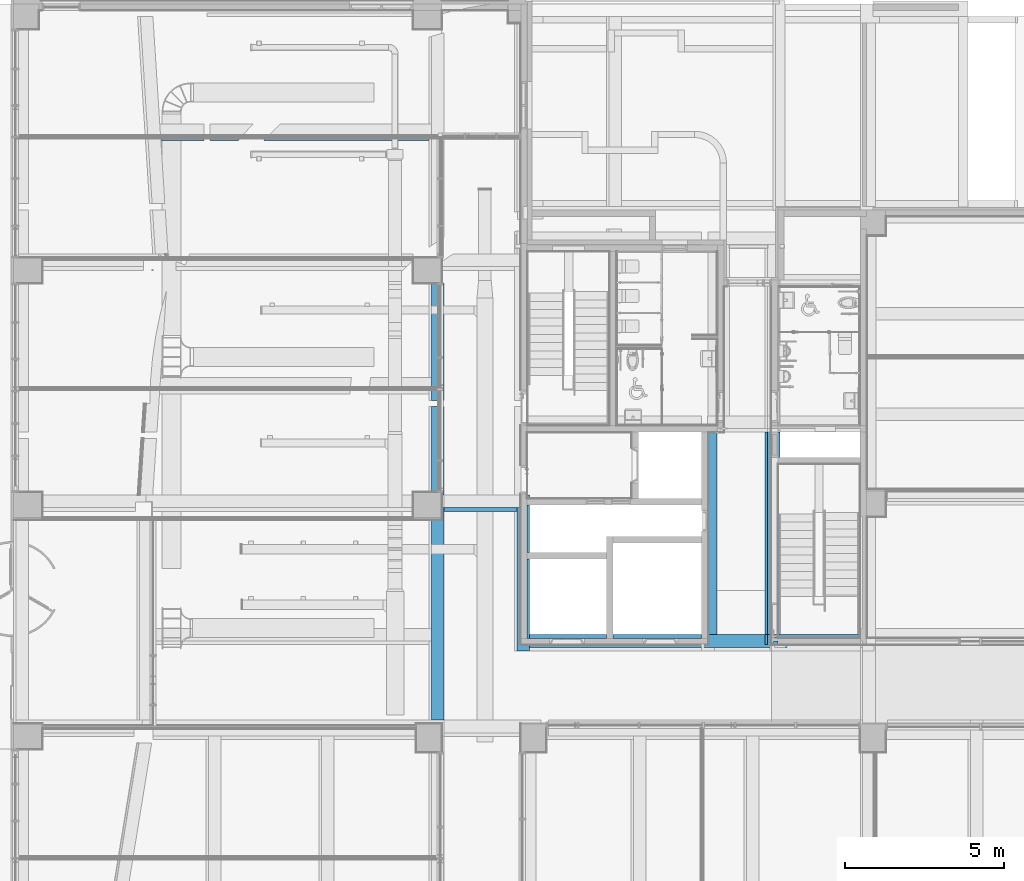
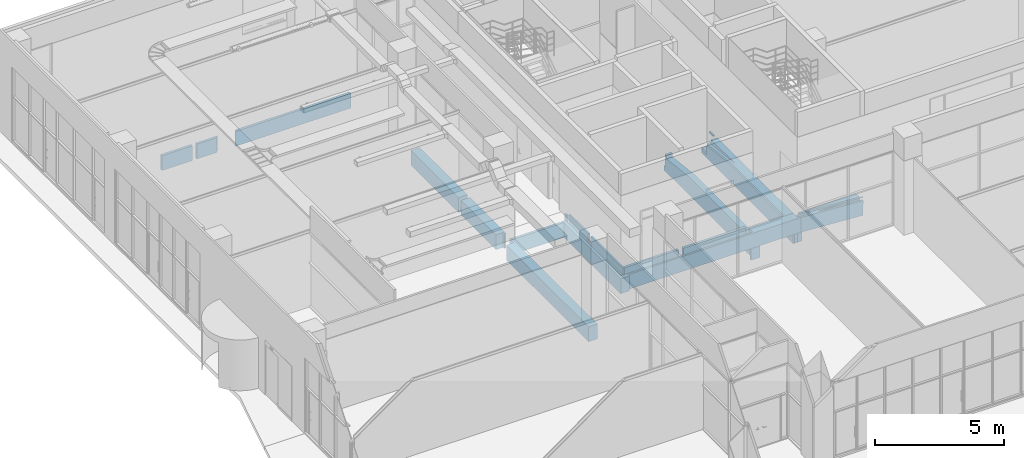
# One storey, part 57 of 100: 10 beams.
"""IFC2X3 building model written with IfcOpenShell, lengths in millimetres."""

import ifcopenshell
import ifcopenshell.guid

model = None  # the IFC model being written
_history = None  # IfcOwnerHistory: only IFC2X3 demands one
_inside = {}  # id of a spatial element -> (the spatial element, [elements in it])
_under = {}  # id of a project, library or spatial element -> (it, [spatial elements below it])
_declared = {}  # id of a project -> (the project, [libraries it declares])
_typed = {}  # id of a type object -> (the type object, [elements of that type])
_made_of = {}  # id of a material, layer set ... -> (it, [elements and type objects made of it])


def new_model(schema):
    """Start an empty IFC model of exactly this schema.

    Asked for "IFC4X3", IfcOpenShell would pick the latest addendum, in which some entities
    have other attributes; the version numbers below select the first issue.
    IFC2X3 requires an IfcOwnerHistory on every rooted entity: one is made here for all.
    """
    global model, _history
    if schema == "IFC4X3":
        model = ifcopenshell.file(schema_version=(4, 3, 0, 0))
    else:
        model = ifcopenshell.file(schema=schema)
    _inside.clear()
    _under.clear()
    _declared.clear()
    _typed.clear()
    _made_of.clear()
    _history = None
    if model.schema == "IFC2X3":
        org = make("IfcOrganization", Name="unknown")
        user = make(
            "IfcPersonAndOrganization",
            ThePerson=make("IfcPerson", FamilyName="unknown"),
            TheOrganization=org,
        )
        app = make(
            "IfcApplication",
            ApplicationDeveloper=org,
            Version="unknown",
            ApplicationFullName="unknown",
            ApplicationIdentifier="unknown",
        )
        _history = make(
            "IfcOwnerHistory",
            OwningUser=user,
            OwningApplication=app,
            ChangeAction="ADDED",
            CreationDate=0,
        )
    return model


def make(cls, **values):
    """One entity of the class cls with the attributes given. An attribute that is None is left unset."""
    return model.create_entity(
        cls, **{name: value for name, value in values.items() if value is not None}
    )


def entity(cls, *values):
    """Any entity or typed value of the class cls, its attributes in the order of the schema. None: left unset."""
    e = model.create_entity(cls)
    for i, value in enumerate(values):
        if value is not None:
            e[i] = value
    return e


def rooted(cls, **values):
    """An entity with a GlobalId (a new one), such as an element, a storey or a relation."""
    return make(cls, GlobalId=ifcopenshell.guid.new(), OwnerHistory=_history, **values)


def si_unit(unit_type, name, prefix=None):
    """IfcSIUnit, for example si_unit("LENGTHUNIT", "METRE", prefix="MILLI")."""
    return make("IfcSIUnit", UnitType=unit_type, Prefix=prefix, Name=name)


def converted_unit(unit_type, name, factor, base, dimensions=None, offset=None):
    """IfcConversionBasedUnit, such as the inch: factor (a typed value) times the base unit."""
    return make(
        "IfcConversionBasedUnit"
        if offset is None
        else "IfcConversionBasedUnitWithOffset",
        ConversionOffset=offset,
        Dimensions=None
        if dimensions is None
        else entity("IfcDimensionalExponents", *dimensions),
        UnitType=unit_type,
        Name=name,
        ConversionFactor=make(
            "IfcMeasureWithUnit", ValueComponent=factor, UnitComponent=base
        ),
    )


def derived_unit(unit_type, elements):
    """IfcDerivedUnit: a product of units, each with its exponent."""
    return make(
        "IfcDerivedUnit",
        Elements=[
            make("IfcDerivedUnitElement", Unit=unit, Exponent=power)
            for unit, power in elements
        ],
        UnitType=unit_type,
    )


def assignment(units):
    """IfcUnitAssignment: the units of a project."""
    return None if units is None else make("IfcUnitAssignment", Units=units)


def point(xyz):
    """IfcCartesianPoint."""
    return None if xyz is None else make("IfcCartesianPoint", Coordinates=xyz)


def direction(xyz):
    """IfcDirection."""
    return None if xyz is None else make("IfcDirection", DirectionRatios=xyz)


def frame(location, z_axis=None, x_axis=None):
    """IfcAxis2Placement3D, a coordinate frame: its origin and axes. An axis left out is left unset."""
    return make(
        "IfcAxis2Placement3D",
        Location=point(location),
        Axis=direction(z_axis),
        RefDirection=direction(x_axis),
    )


def origin():
    """The frame at (0, 0, 0) with its axes left unset."""
    return frame((0.0, 0.0, 0.0))


def place(relative_to, where):
    """IfcLocalPlacement: puts the frame where relative to a parent placement (None: the world)."""
    return make(
        "IfcLocalPlacement", PlacementRelTo=relative_to, RelativePlacement=where
    )


def context(
    kind, dimensions, precision=None, world=None, true_north=None, identifier=None
):
    """IfcGeometricRepresentationContext, for example the 3D "Model" context."""
    return make(
        "IfcGeometricRepresentationContext",
        ContextIdentifier=identifier,
        ContextType=kind,
        CoordinateSpaceDimension=dimensions,
        Precision=precision,
        WorldCoordinateSystem=world,
        TrueNorth=true_north,
    )


def subcontext(parent, identifier, kind, view, scale=None):
    """IfcGeometricRepresentationSubContext, for example "Body" below "Model"."""
    return make(
        "IfcGeometricRepresentationSubContext",
        ContextIdentifier=identifier,
        ContextType=kind,
        ParentContext=parent,
        TargetScale=scale,
        TargetView=view,
    )


def project(units=None, contexts=None):
    """IfcProject with its units and contexts."""
    return rooted(
        "IfcProject",
        Name="project",
        RepresentationContexts=contexts,
        UnitsInContext=assignment(units),
    )


def spatial(cls, under=None, at=None, **own):
    """A site, building, storey or space (cls), placed at a placement, below another one or the project."""
    s = rooted(cls, ObjectPlacement=at, **own)
    if under is not None:
        _under.setdefault(under.id(), (under, []))[1].append(s)
    return s


def faces_of(points, faces, orient=None, outer=None):
    """IfcFace entities. A face is a list of loops; a loop is a list of indices into points, from 0.

    orient and outer hold one flag for each loop. By default every Orientation is true, the
    first loop of a face is its IfcFaceOuterBound and the others are IfcFaceBound.
    """
    made = []
    for i, loops in enumerate(faces):
        bounds = []
        for j, loop in enumerate(loops):
            is_outer = j == 0 if outer is None else outer[i][j]
            bounds.append(
                make(
                    "IfcFaceOuterBound" if is_outer else "IfcFaceBound",
                    Bound=make("IfcPolyLoop", Polygon=[points[k] for k in loop]),
                    Orientation=True if orient is None else orient[i][j],
                )
            )
        made.append(make("IfcFace", Bounds=bounds))
    return made


def faceted_brep(points, faces, orient=None, outer=None, voids=None):
    """IfcFacetedBrep: a solid bounded by flat faces; with voids (closed shells), ...WithVoids."""
    shared = [point(p) for p in points]
    hull = make("IfcClosedShell", CfsFaces=faces_of(shared, faces, orient, outer))
    if voids is None:
        return make("IfcFacetedBrep", Outer=hull)
    return make(
        "IfcFacetedBrepWithVoids",
        Outer=hull,
        Voids=[
            make(cls, CfsFaces=faces_of(shared, fs, o, b)) for cls, fs, o, b in voids
        ],
    )


def shape(context_of_items, identifier, shape_type, items):
    """IfcShapeRepresentation: the items that make up one representation, for example the "Body"."""
    return make(
        "IfcShapeRepresentation",
        ContextOfItems=context_of_items,
        RepresentationIdentifier=identifier,
        RepresentationType=shape_type,
        Items=items,
    )


def source(mapping_origin, context_of_items, identifier, shape_type, items):
    """IfcRepresentationMap: a shape defined once, which mapped items show again and again."""
    return make(
        "IfcRepresentationMap",
        MappingOrigin=mapping_origin,
        MappedRepresentation=shape(context_of_items, identifier, shape_type, items),
    )


def transform(
    local_origin,
    x_axis=None,
    y_axis=None,
    z_axis=None,
    scale=None,
    scale2=None,
    scale3=None,
    uniform=True,
):
    """IfcCartesianTransformationOperator3D, or its non-uniform kind. x_axis, y_axis, z_axis: its Axis1, 2, 3."""
    if uniform:
        return make(
            "IfcCartesianTransformationOperator3D",
            Axis1=direction(x_axis),
            Axis2=direction(y_axis),
            LocalOrigin=point(local_origin),
            Scale=scale,
            Axis3=direction(z_axis),
        )
    return make(
        "IfcCartesianTransformationOperator3DnonUniform",
        Axis1=direction(x_axis),
        Axis2=direction(y_axis),
        LocalOrigin=point(local_origin),
        Scale=scale,
        Axis3=direction(z_axis),
        Scale2=scale2,
        Scale3=scale3,
    )


def mapped(mapping_source, mapping_target):
    """IfcMappedItem: shows the shape of a source again, moved by a transform."""
    return make(
        "IfcMappedItem", MappingSource=mapping_source, MappingTarget=mapping_target
    )


def material(Name=None, Category=None):
    """IfcMaterial."""
    return make("IfcMaterial", Name=Name, Category=Category)


def material_list(materials):
    """IfcMaterialList."""
    return make("IfcMaterialList", Materials=materials)


def made_of(thing, what):
    """Note that an element or type object is made of a material, layer set ...; save() writes the relation."""
    if what is not None:
        _made_of.setdefault(what.id(), (what, []))[1].append(thing)
    return thing


def type_object(cls, material=None, **own):
    """A type object (cls), such as IfcWallType, which elements share."""
    return made_of(rooted(cls, **own), material)


def type_shapes(of_type, sources):
    """Give a type object the sources (RepresentationMaps) that its elements show as mapped items."""
    of_type.RepresentationMaps = sources


def element(
    cls,
    number,
    at=None,
    inside=None,
    cuts=None,
    type_object=None,
    material=None,
    context=None,
    identifier="Body",
    shape_type=None,
    held_by="IfcProductDefinitionShape",
    body=None,
    shapes=None,
    **own,
):
    """One element of the class cls, such as IfcWall. Its Tag is "e" and its number.

    at: its placement. inside: the storey or other place that contains it. cuts: it is an
    opening in that element (IfcRelVoidsElement). A single representation is given by context,
    identifier, shape_type and body (its items); several are given by shapes. held_by: the class
    of the entity that holds the representations. save() writes the other relations.
    """
    e = rooted(cls, Tag="e%d" % number, ObjectPlacement=at, **own)
    if body is not None:
        shapes = [shape(context, identifier, shape_type, body)]
    if shapes is not None:
        e.Representation = make(held_by, Representations=shapes)
    if inside is not None:
        _inside.setdefault(inside.id(), (inside, []))[1].append(e)
    if cuts is not None:
        rooted(
            "IfcRelVoidsElement", RelatingBuildingElement=cuts, RelatedOpeningElement=e
        )
    if type_object is not None:
        _typed.setdefault(type_object.id(), (type_object, []))[1].append(e)
    return made_of(e, material)


def aggregate(whole, parts):
    """IfcRelAggregates: a whole, such as a stair, and the parts it consists of."""
    return rooted("IfcRelAggregates", RelatingObject=whole, RelatedObjects=parts)


def save(model, path):
    """Write the relations noted so far, then the file.

    IfcRelAggregates (storeys below a building ...), IfcRelContainedInSpatialStructure (elements
    in a storey), IfcRelDefinesByType, IfcRelAssociatesMaterial and IfcRelDeclares: one each for
    every whole, place, type object, material and project.
    """
    for whole, parts in _under.values():
        aggregate(whole, parts)
    for where, things in _inside.values():
        rooted(
            "IfcRelContainedInSpatialStructure",
            RelatedElements=things,
            RelatingStructure=where,
        )
    for kind, things in _typed.values():
        rooted("IfcRelDefinesByType", RelatedObjects=things, RelatingType=kind)
    for what, things in _made_of.values():
        rooted("IfcRelAssociatesMaterial", RelatedObjects=things, RelatingMaterial=what)
    for by, libraries in _declared.values():
        rooted("IfcRelDeclares", RelatingContext=by, RelatedDefinitions=libraries)
    model.write(path)


model = new_model("IFC2X3")

# Units and contexts
model_context = context("Model", 3, precision=0.01, world=origin(), true_north=direction((6.123031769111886e-17, 1.0)))
body_context = subcontext(model_context, "Body", "Model", "MODEL_VIEW")
ifc_project = project(units=[si_unit("LENGTHUNIT", "METRE", prefix="MILLI"), si_unit("AREAUNIT", "SQUARE_METRE"), si_unit("VOLUMEUNIT", "CUBIC_METRE"), converted_unit("PLANEANGLEUNIT", "DEGREE", entity("IfcRatioMeasure", 0.017453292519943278), si_unit("PLANEANGLEUNIT", "RADIAN"), dimensions=[0, 0, 0, 0, 0, 0, 0]), si_unit("MASSUNIT", "GRAM", prefix="KILO"), derived_unit("MASSDENSITYUNIT", [(si_unit("MASSUNIT", "GRAM", prefix="KILO"), 1), (si_unit("LENGTHUNIT", "METRE"), -3)]), derived_unit("MOMENTOFINERTIAUNIT", [(si_unit("LENGTHUNIT", "METRE"), 4)]), si_unit("TIMEUNIT", "SECOND"), si_unit("FREQUENCYUNIT", "HERTZ"), si_unit("THERMODYNAMICTEMPERATUREUNIT", "DEGREE_CELSIUS"), derived_unit("THERMALTRANSMITTANCEUNIT", [(si_unit("MASSUNIT", "GRAM", prefix="KILO"), 1), (si_unit("THERMODYNAMICTEMPERATUREUNIT", "KELVIN"), -1), (si_unit("TIMEUNIT", "SECOND"), -3)]), derived_unit("VOLUMETRICFLOWRATEUNIT", [(si_unit("LENGTHUNIT", "METRE"), 3), (si_unit("TIMEUNIT", "SECOND"), -1)]), derived_unit("MASSFLOWRATEUNIT", [(si_unit("MASSUNIT", "GRAM", prefix="KILO"), 1), (si_unit("TIMEUNIT", "SECOND"), -1)]), derived_unit("ROTATIONALFREQUENCYUNIT", [(si_unit("TIMEUNIT", "SECOND"), -1)]), si_unit("ELECTRICCURRENTUNIT", "AMPERE"), si_unit("ELECTRICVOLTAGEUNIT", "VOLT"), si_unit("POWERUNIT", "WATT"), si_unit("FORCEUNIT", "NEWTON", prefix="KILO"), si_unit("ILLUMINANCEUNIT", "LUX"), si_unit("LUMINOUSFLUXUNIT", "LUMEN"), si_unit("LUMINOUSINTENSITYUNIT", "CANDELA"), derived_unit("USERDEFINED", [(si_unit("MASSUNIT", "GRAM", prefix="KILO"), -1), (si_unit("LENGTHUNIT", "METRE"), -2), (si_unit("TIMEUNIT", "SECOND"), 3), (si_unit("LUMINOUSFLUXUNIT", "LUMEN"), 1)]), derived_unit("SOUNDPOWERUNIT", [(si_unit("MASSUNIT", "GRAM", prefix="KILO"), 1), (si_unit("LENGTHUNIT", "METRE"), 2), (si_unit("TIMEUNIT", "SECOND"), -3)]), derived_unit("SOUNDPRESSUREUNIT", [(si_unit("MASSUNIT", "GRAM", prefix="KILO"), 1), (si_unit("LENGTHUNIT", "METRE"), -1), (si_unit("TIMEUNIT", "SECOND"), -2)]), derived_unit("LINEARVELOCITYUNIT", [(si_unit("LENGTHUNIT", "METRE"), 1), (si_unit("TIMEUNIT", "SECOND"), -1)]), si_unit("PRESSUREUNIT", "PASCAL"), derived_unit("USERDEFINED", [(si_unit("LENGTHUNIT", "METRE"), -2), (si_unit("MASSUNIT", "GRAM", prefix="KILO"), 1), (si_unit("TIMEUNIT", "SECOND"), -2)]), derived_unit("LINEARFORCEUNIT", [(si_unit("MASSUNIT", "GRAM", prefix="KILO"), 1), (si_unit("LENGTHUNIT", "METRE"), 1), (si_unit("TIMEUNIT", "SECOND"), -2), (si_unit("LENGTHUNIT", "METRE"), -1)]), derived_unit("PLANARFORCEUNIT", [(si_unit("MASSUNIT", "GRAM", prefix="KILO"), 1), (si_unit("LENGTHUNIT", "METRE"), 1), (si_unit("TIMEUNIT", "SECOND"), -2), (si_unit("LENGTHUNIT", "METRE"), -2)])], contexts=[model_context])

# Site, building, storey
site_placement = place(None, frame((-14167.972527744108, -657.2125860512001, 0.0)))
site = spatial("IfcSite", under=ifc_project, at=site_placement, Name="Default", CompositionType="ELEMENT")
building_placement = place(site_placement, origin())
building = spatial("IfcBuilding", under=site, at=building_placement, Name="Sample Building", CompositionType="ELEMENT")
storey_placement = place(building_placement, origin())
storey = spatial("IfcBuildingStorey", under=building, at=storey_placement, Name="지상 1층", CompositionType="ELEMENT", Elevation=0.0)

# Beams
ifc_material = material(Name="KBIMS-콘크리트")
beam_type_1 = type_object("IfcBeamType", Name="BM111-철근콘크리트구조 보:BM110-철근 콘크리트구조 보_400 x 850_B1-1G3", PredefinedType="NOTDEFINED")
beam_1_placement = place(storey_placement, frame((27642.874705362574, 19757.212617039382, -850.0)))
element("IfcBeam", 1, at=beam_1_placement, inside=storey, type_object=beam_type_1, material=ifc_material, Name="BM111-철근콘크리트구조 보:BM110-철근 콘크리트구조 보_400 x 850_B1-1G3", ObjectType="BM111-철근콘크리트구조 보:BM110-철근 콘크리트구조 보_400 x 850_B1-1G3", context=body_context, shape_type="Brep", body=[
    faceted_brep([(2300.3711937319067, 113.86449812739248, 0.0), (2300.3711937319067, 0.0, 0.0), (2225.0717434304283, 0.0, 0.0), (0.0, 0.0, 0.0), (0.0, 111.47158977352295, 0.0), (0.37119373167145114, 111.47158977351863, 0.0), (0.37119373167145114, 113.86449812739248, 0.0), (2300.3711937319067, 0.0, 700.0), (2225.0717434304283, 0.0, 700.0), (0.0, 0.0, 700.0), (2300.3711937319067, 113.86449812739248, 700.0), (0.37119373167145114, 113.86449812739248, 700.0), (0.37119373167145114, 111.47158977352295, 700.0), (0.0, 111.47158977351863, 700.0)], [[[0, 1, 2, 3, 4, 5, 6]], [[1, 7, 8, 9, 3, 2]], [[7, 10, 11, 12, 13, 9, 8]], [[7, 1, 0, 10]], [[10, 0, 6, 11]], [[3, 9, 13, 4]], [[5, 12, 11, 6]], [[12, 5, 4, 13]]]),
])
beam_type_2 = type_object("IfcBeamType", Name="BM111-철근콘크리트구조 보:BM110-철근 콘크리트구조 보_400 x 850_B1-1G4", PredefinedType="NOTDEFINED")
beam_2_placement = place(storey_placement, frame((27242.874705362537, 13171.077049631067, -850.0), z_axis=(0.0, 0.0, 1.0), x_axis=(0.0, 1.0, 0.0)))
element("IfcBeam", 2, at=beam_2_placement, inside=storey, type_object=beam_type_2, material=ifc_material, Name="BM111-철근콘크리트구조 보:BM110-철근 콘크리트구조 보_400 x 850_B1-1G4", ObjectType="BM111-철근콘크리트구조 보:BM110-철근 콘크리트구조 보_400 x 850_B1-1G4", context=body_context, shape_type="Brep", body=[
    faceted_brep([(0.0, -400.0, 700.0), (0.0, -400.0, 0.0), (6586.135567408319, -400.0, 0.0), (6697.607157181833, -400.0, 0.0), (6700.000065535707, -400.0, 0.0), (6700.000065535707, -400.0, 700.0), (6697.6071571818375, -400.0, 700.0), (6586.135567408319, -400.0, 700.0), (0.0, -387.6798867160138, 0.0), (0.0, 0.0, 0.0), (2500.0000113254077, 0.0, 0.0), (2900.0000113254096, 0.0, 0.0), (6386.135567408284, 0.0, 0.0), (6386.135567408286, -325.08043641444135, 0.0), (6700.000065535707, -325.0804364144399, 0.0), (0.0, 0.0, 700.0), (2500.0000113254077, 0.0, 700.0), (2900.0000113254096, 0.0, 700.0), (6386.135567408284, 0.0, 700.0), (0.0, -387.6798867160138, 700.0), (6700.000065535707, -325.0804364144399, 700.0), (6386.135567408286, -325.08043641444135, 700.0)], [[[0, 1, 2, 3, 4, 5, 6, 7]], [[1, 8, 9, 10, 11, 12, 13, 14, 4, 3, 2]], [[9, 15, 16, 17, 18, 12, 11, 10]], [[15, 9, 8, 1, 0, 19]], [[19, 0, 7, 6, 5, 20, 21, 18, 17, 16, 15]], [[5, 4, 14, 20]], [[21, 13, 12, 18]], [[13, 21, 20, 14]]]),
])
ifc_material_list_1 = material_list([ifc_material, ifc_material, ifc_material])
ifc_material_list_2 = material_list([ifc_material, ifc_material, ifc_material])
beam_type_3 = type_object("IfcBeamType", Name="BM111-철근콘크리트구조 보:BM110-철근 콘크리트구조 보_400 x 850_B1-1G4", PredefinedType="BEAM", material=ifc_material_list_2)
shared_shape_1 = source(origin(), body_context, "Body", "Brep", [
    faceted_brep([(400.0, 7088.392769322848, 0.0), (0.0, 7088.392769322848, 0.0), (0.0, 7088.392769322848, 700.0), (324.7092426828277, 7088.392769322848, 700.0), (400.0, 7088.392769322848, 700.0), (0.0, 3388.5281011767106, 700.0), (0.0, 3388.5281011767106, 0.0), (400.0, 3388.5281011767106, 0.0), (400.0, 3388.5281011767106, 700.0), (0.0, 3702.3928955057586, 700.0), (0.0, 4102.392895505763, 700.0), (0.0, 4102.392895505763, 0.0), (0.0, 3702.3928955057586, 0.0)], [[[0, 1, 2, 3, 4]], [[5, 6, 7, 8]], [[6, 5, 9, 10, 2, 1, 11, 12]], [[4, 8, 7, 0]], [[1, 0, 7, 6, 12, 11]], [[8, 4, 3, 2, 10, 9, 5]]]),
    faceted_brep([(400.0, 2.3929083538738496, 0.0), (400.0, 2.3929083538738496, 700.0), (400.0, 0.0, 700.0), (400.0, 0.0, 0.0), (399.6288062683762, 0.0, 0.0), (399.6288062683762, 2.3929083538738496, 0.0), (399.6288062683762, 2.3929083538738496, 700.0), (399.6288062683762, 0.0, 700.0)], [[[0, 1, 2, 3]], [[0, 3, 4, 5]], [[2, 1, 6, 7]], [[5, 4, 7, 6]], [[1, 0, 5, 6]], [[3, 2, 7, 4]]]),
    faceted_brep([(0.0, 3188.528101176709, 700.0), (0.0, 3188.528101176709, 0.0), (0.0, 488.5284102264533, 0.0), (0.0, 488.5284102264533, 700.0), (400.0, 402.3929083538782, 0.0), (400.0, 402.3929083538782, 700.0), (399.6288062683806, 402.3929083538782, 700.0), (324.7092426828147, 402.3929083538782, 700.0), (324.7092426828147, 402.3929083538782, 0.0), (399.6288062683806, 402.3929083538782, 0.0), (400.0, 3188.528101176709, 700.0), (400.0, 3188.528101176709, 0.0), (324.7092426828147, 488.5284102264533, 0.0), (324.7092426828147, 488.5284102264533, 700.0)], [[[0, 1, 2, 3]], [[4, 5, 6, 7, 8, 9]], [[1, 0, 10, 11]], [[5, 4, 11, 10]], [[4, 9, 8, 12, 2, 1, 11]], [[5, 10, 0, 3, 13, 7, 6]], [[12, 13, 3, 2]], [[13, 12, 8, 7]]]),
])
type_shapes(beam_type_3, [shared_shape_1])
beam_3_placement = place(storey_placement, frame((27243.245899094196, 19868.6842068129, -850.0)))
element("IfcBeam", 3, at=beam_3_placement, inside=storey, type_object=beam_type_3, material=ifc_material_list_1, Name="BM111-철근콘크리트구조 보:BM110-철근 콘크리트구조 보_400 x 850_B1-1G4", ObjectType="BM111-철근콘크리트구조 보:BM110-철근 콘크리트구조 보_400 x 850_B1-1G4", context=body_context, shape_type="MappedRepresentation", body=[
    mapped(shared_shape_1, transform((0.0, 0.0, 0.0), scale=1.0)),
])
beam_type_4 = type_object("IfcBeamType", Name="BM111-철근콘크리트구조 보:BM110-철근 콘크리트구조 보_400 x 850_B1-1WG1", PredefinedType="BEAM", material=ifc_material)
beam_4_placement = place(storey_placement, frame((35843.24589909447, 15471.077102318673, -1400.0), z_axis=(0.0, 0.0, 1.0), x_axis=(0.0, 1.0, 0.0)))
element("IfcBeam", 4, at=beam_4_placement, inside=storey, type_object=beam_type_4, material=ifc_material, Name="BM111-철근콘크리트구조 보:BM110-철근 콘크리트구조 보_400 x 850_B1-1WG1", ObjectType="BM111-철근콘크리트구조 보:BM110-철근 콘크리트구조 보_400 x 850_B1-1WG1", context=body_context, shape_type="Brep", body=[
    faceted_brep([(4956.986466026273, -400.0, 850.0), (4956.986466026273, -124.72659203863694, 850.0), (400.0, -124.72659203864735, 850.0), (400.0, -400.0, 850.0), (0.0, -400.0, 550.0), (0.0, -400.0, 0.0), (6752.853288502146, -400.0, 0.0), (6786.135209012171, -400.0, 0.0), (6900.000016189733, -400.0, 0.0), (6986.135209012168, -400.0, 0.0), (6986.135209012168, -400.0, 200.0), (6900.00001618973, -400.0, 200.0), (6900.00001618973, -400.0, 800.0), (6786.135209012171, -400.0, 800.0), (6786.135209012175, -400.0, 648.7936382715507), (6752.85328850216, -400.0, 652.4546495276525), (400.0, -400.0, 550.0), (0.0, -324.7005496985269, 0.0), (0.0, 0.0, 0.0), (82.2258447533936, 0.0, 0.0), (82.2258447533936, -124.72659203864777, 0.0), (6986.135209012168, -124.72659203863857, 0.0), (0.0, -324.7005496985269, 550.0), (0.0, 0.0, 550.0), (400.0, -124.72659203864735, 550.0), (82.2258447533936, -124.72659203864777, 550.0), (82.2258447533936, 0.0, 550.0), (6786.135209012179, -124.72659203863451, 648.7936382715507), (6786.135209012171, -124.72659203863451, 800.0), (6886.13520901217, -124.72659203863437, 800.0), (6900.00001618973, -124.72659203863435, 800.0), (6900.00001618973, -124.72659203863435, 200.0), (6986.135209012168, -124.72659203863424, 200.0)], [[[0, 1, 2, 3]], [[4, 5, 6, 7, 8, 9, 10, 11, 12, 13, 14, 15, 0, 3, 16]], [[5, 17, 18, 19, 20, 21, 9, 8, 7, 6]], [[18, 17, 5, 4, 22, 23]], [[16, 3, 2, 24]], [[4, 16, 24, 25, 26, 23, 22]], [[14, 27, 1, 0, 15]], [[27, 14, 13, 28]], [[25, 20, 19, 26]], [[20, 25, 24, 2, 1, 27, 28, 29, 30, 31, 32, 21]], [[18, 23, 26, 19]], [[30, 29, 28, 13, 12]], [[10, 9, 21, 32]], [[12, 11, 31, 30]], [[11, 10, 32, 31]]]),
])
ifc_material_list_3 = material_list([ifc_material, ifc_material])
ifc_material_list_4 = material_list([ifc_material, ifc_material])
beam_type_5 = type_object("IfcBeamType", Name="BM111-철근콘크리트구조 보:BM110-철근 콘크리트구조 보_400 x 850_B1-1WG1", PredefinedType="BEAM", material=ifc_material_list_4)
shared_shape_2 = source(origin(), body_context, "Body", "Brep", [
    faceted_brep([(0.0, 0.0, 0.0), (100.0, 0.0, -6.3196723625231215), (397.0372766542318, 0.0, -25.09145504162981), (2800.0, 0.0, -176.950826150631), (2800.0, 86.13519282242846, -176.95082615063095), (2700.0, 86.13519282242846, -170.63115378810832), (397.0372766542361, 86.13519282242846, -25.091455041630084), (100.0, 86.13519282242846, -6.319672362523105), (0.0, 86.13519282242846, 0.0), (0.0, 0.0, -3.8011370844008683), (0.0, 0.0, -4.654136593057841), (2800.0, 0.0, -178.70848778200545), (0.0, 86.13519282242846, -4.654136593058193), (2700.0, 86.13519282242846, -172.49226095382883), (2800.0, 86.13519282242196, -178.70848778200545), (0.0, 86.13519282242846, -3.801137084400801)], [[[0, 1, 2, 3, 4, 5, 6, 7, 8]], [[3, 2, 1, 0, 9, 10, 11]], [[11, 10, 12, 13, 14]], [[12, 15, 8, 7, 6, 5, 4, 14, 13]], [[10, 9, 0, 8, 15, 12]], [[14, 4, 3, 11]]]),
    faceted_brep([(100.0, 400.0, -548.4379097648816), (100.0, 400.0, -198.4379097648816), (2700.0, 400.0, -198.43790976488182), (2700.0, 400.0, -498.4379097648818), (2698.0153649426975, 400.0, -498.437909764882), (2698.0153649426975, 400.0, -648.4379097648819), (2700.0, 400.0, -648.4379097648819), (2700.0, 400.0, -1022.326838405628), (175.28210094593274, 400.0, -862.7729391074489), (0.0, 400.0, -851.6956846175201), (0.0, 400.0, -848.437909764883), (0.0, 400.0, -548.4379097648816), (0.0, 0.0, -851.6956846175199), (0.0, 200.0, -851.6956846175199), (2700.0, 199.99995863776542, -1022.326838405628), (2775.2907939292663, 199.99995863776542, -1027.0849699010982), (2775.2907939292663, 0.0, -1027.0849699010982), (2699.991343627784, 0.0, -1022.3262913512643), (347.4739477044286, 0.0, -873.6548996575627), (0.0, 0.0, -154.94366823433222), (2800.0, 0.0, -328.9980194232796), (2800.0, 86.13519282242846, -328.99801942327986), (2700.0, 86.13519282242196, -322.78179259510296), (699.6887779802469, 86.13519282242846, -198.4379097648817), (0.0, 86.13519282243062, -154.94366823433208), (2700.0, 86.1351928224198, -198.43790976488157), (0.0, 0.0, -848.4379097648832), (2775.2907939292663, 0.0, -498.43790976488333), (2800.0, 0.0, -498.43790976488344), (0.0, 86.13519282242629, -198.43790976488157), (100.0, 286.13519282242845, -198.43790976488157), (0.0, 286.13519282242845, -198.43790976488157), (100.0, 286.13519282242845, -548.4379097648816), (0.0, 286.13519282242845, -548.4379097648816), (2800.0, 86.1351708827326, -498.43790976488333), (2700.0, 86.13519282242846, -498.43790976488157), (2700.0, 199.99995863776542, -498.43790976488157), (2800.0, 86.13519282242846, -498.43790976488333), (2775.2907939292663, 86.13519282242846, -498.43790976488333), (2775.2907939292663, 86.13515146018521, -648.4379097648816), (2698.0153649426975, 86.13515146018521, -648.4379097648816), (2698.0153649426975, 86.13515146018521, -498.43790976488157), (2775.2907939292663, 199.99995863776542, -648.4379097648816), (2700.0, 199.99995863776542, -648.4379097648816), (2775.2907939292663, 86.13519282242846, -648.4379097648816)], [[[0, 1, 2, 3, 4, 5, 6, 7, 8, 9, 10, 11]], [[12, 13, 9, 8, 7, 14, 15, 16, 17, 18]], [[19, 20, 21, 22, 23, 24]], [[23, 22, 25]], [[20, 19, 26, 12, 18, 17, 16, 27, 28]], [[29, 23, 25, 2, 1, 30, 31]], [[23, 29, 24]], [[0, 32, 30, 1]], [[32, 0, 11, 33]], [[30, 32, 33, 31]], [[9, 13, 12, 26, 19, 24, 29, 31, 33, 11, 10]], [[21, 20, 28, 34]], [[3, 2, 25, 22, 35, 36]], [[22, 21, 37, 38, 39, 40, 41, 35]], [[5, 40, 39, 42, 43, 6]], [[35, 41, 4, 3, 36]], [[41, 40, 5, 4]], [[27, 38, 34, 28]], [[38, 27, 16, 15, 42, 44]], [[14, 43, 42, 15]], [[43, 14, 7, 6]]]),
])
type_shapes(beam_type_5, [shared_shape_2])
beam_5_placement = place(storey_placement, frame((38067.96379814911, 15471.077102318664, -1.5620902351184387)))
element("IfcBeam", 5, at=beam_5_placement, inside=storey, type_object=beam_type_5, material=ifc_material_list_3, Name="BM111-철근콘크리트구조 보:BM110-철근 콘크리트구조 보_400 x 850_B1-1WG1", ObjectType="BM111-철근콘크리트구조 보:BM110-철근 콘크리트구조 보_400 x 850_B1-1WG1", context=body_context, shape_type="MappedRepresentation", body=[
    mapped(shared_shape_2, transform((0.0, 0.0, 0.0), scale=1.0)),
])
ifc_material_list_5 = material_list([ifc_material, ifc_material, ifc_material, ifc_material])
ifc_material_list_6 = material_list([ifc_material, ifc_material, ifc_material, ifc_material])
beam_type_6 = type_object("IfcBeamType", Name="BM111-철근콘크리트구조 보:BM110-철근 콘크리트구조 보_400 x 850_B1-1WG1", PredefinedType="BEAM", material=ifc_material_list_6)
shared_shape_3 = source(origin(), body_context, "Body", "Brep", [
    faceted_brep([(322.8799153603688, 3099.9997054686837, 850.0), (400.0, 3099.9997054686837, 850.0), (400.0, 4599.999703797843, 850.0), (322.8799153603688, 4599.999703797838, 850.0), (322.8799153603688, 3099.9997054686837, 0.0), (400.0, 3099.9997054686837, 0.0), (400.0, 4599.999703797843, 0.0), (322.8799153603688, 4599.999703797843, 0.0)], [[[0, 1, 2, 3]], [[1, 0, 4, 5]], [[3, 2, 6, 7]], [[1, 5, 6, 2]], [[5, 4, 7, 6]], [[4, 0, 3, 7]]]),
    faceted_brep([(400.0, 4913.8645109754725, 0.0), (400.0, 4913.8645109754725, 700.0), (400.0, 4799.99970379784, 700.0), (400.0, 4799.999703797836, 0.0), (322.8799153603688, 4913.8645109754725, 0.0), (324.7005496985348, 4913.8645109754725, 0.0), (322.8799153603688, 4799.999703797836, 0.0), (322.8799153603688, 4913.8645109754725, 700.0), (324.7005496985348, 4913.8645109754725, 700.0), (400.0, 4799.999809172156, 700.0), (322.8799153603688, 4799.99970379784, 700.0), (322.8799153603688, 4799.999809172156, 700.0)], [[[0, 1, 2, 3]], [[4, 5, 0, 3, 6]], [[0, 5, 4, 7, 8, 1]], [[9, 1, 8, 7, 10]], [[3, 2, 10, 6]], [[7, 4, 6, 11]]]),
    faceted_brep([(0.0, 4513.864510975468, 700.0), (0.0, 4513.864510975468, 0.0), (0.0, 4400.000012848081, 0.0), (0.0, 0.0, 0.0), (0.0, 0.0, 700.0), (0.0, 4400.000012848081, 700.0), (122.87991536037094, 4513.864510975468, 700.0), (122.87991536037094, 4513.864510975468, 0.0), (400.0, 0.0, 700.0), (400.0, 113.86449812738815, 700.0), (400.0, 196.0903428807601, 700.0), (322.8799153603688, 196.0903428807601, 700.0), (122.87991536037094, 196.09034288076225, 700.0), (122.87991536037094, 196.09034288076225, 0.0), (400.0, 0.0, 0.0), (400.0, 113.86449812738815, 0.0), (400.0, 196.0903428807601, 0.0)], [[[0, 1, 2, 3, 4, 5]], [[1, 0, 6, 7]], [[0, 5, 4, 8, 9, 10, 11, 12, 6]], [[13, 7, 6, 12]], [[3, 14, 8, 4]], [[8, 14, 15, 16, 10, 9]], [[1, 7, 13, 16, 15, 14, 3, 2]], [[10, 16, 13, 12, 11]]]),
    faceted_brep([(400.0, 396.0903428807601, 850.0), (322.8799153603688, 396.0903428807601, 850.0), (322.8799153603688, 396.0903428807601, 0.0), (400.0, 396.0903428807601, 0.0), (322.8799153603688, 2899.9997054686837, 850.0), (400.0, 2899.9997054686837, 850.0), (400.0, 2899.9997054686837, 0.0), (322.8799153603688, 2899.9997054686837, 0.0), (400.0, 513.8644981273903, 850.0), (400.0, 513.8644981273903, 0.0)], [[[0, 1, 2, 3]], [[4, 5, 6, 7]], [[1, 0, 8, 5, 4]], [[0, 3, 9, 6, 5, 8]], [[3, 2, 7, 6, 9]], [[2, 1, 4, 7]]]),
])
type_shapes(beam_type_6, [shared_shape_3])
beam_6_placement = place(storey_placement, frame((29943.245899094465, 15357.212604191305, -850.0)))
element("IfcBeam", 6, at=beam_6_placement, inside=storey, type_object=beam_type_6, material=ifc_material_list_5, Name="BM111-철근콘크리트구조 보:BM110-철근 콘크리트구조 보_400 x 850_B1-1WG1", ObjectType="BM111-철근콘크리트구조 보:BM110-철근 콘크리트구조 보_400 x 850_B1-1WG1", context=body_context, shape_type="MappedRepresentation", body=[
    mapped(shared_shape_3, transform((0.0, 0.0, 0.0), scale=1.0)),
])
ifc_material_list_7 = material_list([ifc_material, ifc_material])
ifc_material_list_8 = material_list([ifc_material, ifc_material])
beam_type_7 = type_object("IfcBeamType", Name="BM111-철근콘크리트구조 보:BM110-철근 콘크리트구조 보_400 x 800_1B5", PredefinedType="BEAM", material=ifc_material_list_8)
shared_shape_4 = source(origin(), body_context, "Body", "Brep", [
    faceted_brep([(400.0, 7213.864514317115, 800.0), (324.7091629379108, 7213.864514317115, 800.0), (324.7091629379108, 6899.99969429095, 800.0), (400.0, 6899.99969429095, 800.0), (400.0, 7213.864514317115, 750.0), (400.0, 6899.99969429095, 750.0), (324.7091629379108, 7213.864514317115, 750.0), (324.7091629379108, 6899.99969429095, 750.0)], [[[0, 1, 2, 3]], [[4, 0, 3, 5]], [[0, 4, 6, 1]], [[6, 4, 5, 7]], [[1, 6, 7, 2]], [[3, 2, 7, 5]]]),
    faceted_brep([(400.0, 7213.864514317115, 0.0), (400.0, 113.86449812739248, 0.0), (324.7005496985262, 113.86449812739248, 0.0), (200.0, 113.86449812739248, 0.0), (124.70054969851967, 0.0, 0.0), (0.0, 0.0, 0.0), (0.0, 6700.0000161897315, 0.0), (0.0, 6813.86451431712, 0.0), (0.0, 7100.000016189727, 0.0), (0.0, 7213.864514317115, 0.0), (0.0, 0.0, 500.0), (0.0, 313.8644981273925, 500.0), (0.0, 313.8644981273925, 800.0), (0.0, 4870.850964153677, 800.0), (0.0, 6699.9997071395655, 598.7936382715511), (0.0, 6699.9997071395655, 600.0), (0.0, 6813.86451431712, 600.0), (0.0, 6813.864514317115, 150.0), (0.0, 7100.000016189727, 150.0), (0.0, 7213.864514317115, 150.0), (124.70054969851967, 0.0, 498.778822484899), (124.70054969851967, 0.0, 500.0), (224.71789905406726, 313.8644981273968, 496.74222514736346), (400.0, 313.8644981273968, 485.66497065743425), (400.0, 313.8644981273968, 800.0), (324.7178990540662, 313.8644981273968, 800.0), (224.71789905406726, 313.86449812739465, 800.0), (124.71789905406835, 313.86449812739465, 800.0), (224.71789905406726, 313.8644981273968, 500.0), (224.7178990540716, 113.86449812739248, 496.74222514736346), (400.0, 113.86449812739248, 485.66497065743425), (400.0, 200.0, 485.66497065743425), (200.0, 113.86449812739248, 500.0), (224.71789905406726, 113.86449812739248, 500.0), (400.0, 6813.86451431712, 550.0), (400.0, 6813.864514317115, 150.0), (324.717899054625, 6813.864514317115, 600.0), (324.717899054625, 6813.864514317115, 550.0), (400.0, 7213.864514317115, 150.0), (124.71789905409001, 4870.8509641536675, 800.0), (124.71789905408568, 6699.9997071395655, 598.7936382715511), (124.71789905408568, 6699.999707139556, 800.0), (124.71789905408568, 6699.9997071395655, 600.0), (324.717899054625, 6699.999694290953, 550.0), (400.0, 6699.999694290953, 550.0), (324.7091629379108, 6699.999707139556, 600.0), (324.7091629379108, 6699.9996978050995, 800.0), (400.0, 6699.999694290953, 800.0), (324.717899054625, 6699.999694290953, 600.0), (400.0, 113.86449812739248, 484.0164483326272), (200.0, 113.86449812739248, 494.74104232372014)], [[[0, 1, 2, 3, 4, 5, 6, 7, 8, 9]], [[5, 10, 11, 12, 13, 14, 15, 16, 17, 18, 19, 9, 8, 7, 6]], [[10, 5, 4, 20, 21]], [[22, 23, 24, 25, 26, 27, 12, 11, 28]], [[23, 22, 29, 30, 31]], [[11, 10, 21, 32, 33, 28]], [[34, 35, 17, 16, 36, 37]], [[35, 38, 19, 18, 17]], [[0, 9, 19, 38]], [[39, 40, 14, 13]], [[40, 39, 41, 42]], [[14, 40, 42, 15]], [[37, 43, 44, 34]], [[44, 43, 45, 42, 41, 46, 47]], [[43, 37, 36, 48]], [[42, 48, 36, 16, 15]], [[12, 27, 26, 25, 24, 47, 46, 41, 39, 13]], [[24, 23, 31, 30, 49, 1, 0, 38, 35, 34, 44, 47]], [[29, 22, 28, 33]], [[4, 3, 50, 32, 21, 20]], [[3, 2, 1, 49, 30, 29, 33, 32, 50]]]),
])
type_shapes(beam_type_7, [shared_shape_4])
beam_7_placement = place(storey_placement, frame((37843.24589909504, 15557.212604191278, -1350.0)))
element("IfcBeam", 7, at=beam_7_placement, inside=storey, type_object=beam_type_7, material=ifc_material_list_7, Name="BM111-철근콘크리트구조 보:BM110-철근 콘크리트구조 보_400 x 800_1B5", ObjectType="BM111-철근콘크리트구조 보:BM110-철근 콘크리트구조 보_400 x 800_1B5", context=body_context, shape_type="MappedRepresentation", body=[
    mapped(shared_shape_4, transform((0.0, 0.0, 0.0), scale=1.0)),
])
ifc_material_list_9 = material_list([ifc_material, ifc_material, ifc_material, ifc_material])
ifc_material_list_10 = material_list([ifc_material, ifc_material, ifc_material, ifc_material])
beam_type_8 = type_object("IfcBeamType", Name="BM111-철근콘크리트구조 보:BM110-철근 콘크리트구조 보_400 x 850_B1-1WG1", PredefinedType="BEAM", material=ifc_material_list_10)
shared_shape_5 = source(origin(), body_context, "Body", "Brep", [
    faceted_brep([(2424.72681798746, 400.0, 850.0), (0.0, 400.0, 850.0), (0.0, 282.22584475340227, 850.0), (2424.72681798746, 282.22584475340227, 850.0), (0.0, 400.0, 0.0), (2424.72681798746, 400.0, 0.0), (0.0, 282.22584475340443, 0.0), (2424.72681798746, 282.22584475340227, 0.0)], [[[0, 1, 2, 3]], [[4, 1, 0, 5]], [[6, 4, 5, 7]], [[1, 4, 6, 2]], [[5, 0, 3, 7]], [[2, 6, 7, 3]]]),
    faceted_brep([(7624.717899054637, 0.0, 700.0), (0.0, 0.0, 700.0), (0.0, 0.0, 0.0), (5500.0, 0.0, 0.0), (5900.0, 0.0, 0.0), (7601.927146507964, 0.0, 0.0), (7724.717899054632, 0.0, 0.0), (7724.717899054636, 0.0, 693.494241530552), (7624.717899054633, 0.0, 699.7104683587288), (7624.717899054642, 400.0, 700.0), (5624.726592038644, 400.0, 700.0), (5624.726592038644, 86.13520567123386, 700.0), (5624.726592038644, 82.22584475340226, 700.0), (0.0, 82.22584475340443, 700.0), (7624.717899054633, 86.13519282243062, 699.7104683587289), (7724.717899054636, 86.13519282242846, 693.494241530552), (7624.717899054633, 86.13519282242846, 650.0), (7624.717899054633, 286.13519282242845, 650.0), (7624.717899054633, 286.13519282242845, 300.0), (7624.717899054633, 400.0, 300.0), (7724.717899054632, 86.13519282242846, 650.0), (7724.717899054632, 286.13519282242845, 650.0), (5624.726592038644, 82.22584475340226, 0.0), (5500.0, 82.22584475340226, 0.0), (5424.700549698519, 82.22584475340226, 0.0), (0.0, 82.22584475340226, 0.0), (5624.726592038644, 400.0, 300.0), (5624.726592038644, 400.0, 0.0), (5900.0, 400.0, 0.0), (7424.700549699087, 400.0, 0.0), (7500.0, 400.0, 0.0), (7724.717899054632, 400.0, 0.0), (7724.717899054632, 200.0, 0.0), (7724.717899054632, 286.13519282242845, 300.0), (7724.717899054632, 400.0, 300.0)], [[[0, 1, 2, 3, 4, 5, 6, 7, 8]], [[9, 10, 11, 12, 13, 1, 0]], [[14, 8, 7, 15]], [[8, 14, 16, 17, 18, 19, 9, 0]], [[16, 20, 21, 17]], [[16, 14, 15, 20]], [[12, 22, 23, 24, 25, 13]], [[22, 12, 11, 10, 26, 27]], [[25, 24, 23, 22, 27, 28, 29, 30, 31, 32, 6, 5, 4, 3, 2]], [[19, 18, 33, 34]], [[18, 17, 21, 33]], [[10, 9, 19, 34, 31, 30, 29, 28, 27, 26]], [[6, 32, 31, 34, 33, 21, 20, 15, 7]], [[2, 1, 13, 25]]]),
    faceted_brep([(7824.71789905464, 0.0, 842.1182374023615), (7724.717899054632, 0.0, 848.4379097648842), (7724.717899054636, 86.13519282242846, 848.4379097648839), (7824.717899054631, 86.13519282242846, 842.1182374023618), (7624.717899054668, 86.13519282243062, 850.0), (7624.717899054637, 0.0, 850.0), (7824.717899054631, 0.0, 850.0), (7824.717899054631, 86.13519282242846, 850.0), (7724.717899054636, 0.0, 843.7837731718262), (7724.717899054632, 86.13519282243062, 843.7837731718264), (7724.717899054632, 0.0, 844.6367726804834)], [[[0, 1, 2, 3]], [[4, 5, 6, 7]], [[8, 5, 4, 9]], [[5, 8, 10, 1, 0, 6]], [[4, 7, 3, 2, 9]], [[6, 0, 3, 7]], [[1, 10, 8, 9, 2]]]),
    faceted_brep([(2624.726817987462, 282.22584475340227, 850.0), (2624.726817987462, 282.22584475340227, 0.0), (5424.726592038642, 282.22584475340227, 0.0), (5424.726592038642, 282.22584475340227, 850.0), (2624.726817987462, 400.0, 850.0), (2624.726817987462, 400.0, 0.0), (5424.726592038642, 400.0, 850.0), (5424.726592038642, 400.0, 0.0)], [[[0, 1, 2, 3]], [[4, 5, 1, 0]], [[5, 4, 6, 7]], [[3, 2, 7, 6]], [[4, 0, 3, 6]], [[1, 5, 7, 2]]]),
])
type_shapes(beam_type_8, [shared_shape_5])
beam_8_placement = place(storey_placement, frame((30343.245899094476, 15471.077102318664, -850.0)))
element("IfcBeam", 8, at=beam_8_placement, inside=storey, type_object=beam_type_8, material=ifc_material_list_9, Name="BM111-철근콘크리트구조 보:BM110-철근 콘크리트구조 보_400 x 850_B1-1WG1", ObjectType="BM111-철근콘크리트구조 보:BM110-철근 콘크리트구조 보_400 x 850_B1-1WG1", context=body_context, shape_type="MappedRepresentation", body=[
    mapped(shared_shape_5, transform((0.0, 0.0, 0.0), scale=1.0)),
])
ifc_material_list_11 = material_list([ifc_material, ifc_material, ifc_material])
ifc_material_list_12 = material_list([ifc_material, ifc_material, ifc_material])
beam_type_9 = type_object("IfcBeamType", Name="BM111-철근콘크리트구조 보:BM110-철근 콘크리트구조 보_400 x 800_B1-1B2", PredefinedType="BEAM", material=ifc_material_list_12)
shared_shape_6 = source(origin(), body_context, "Body", "Brep", [
    faceted_brep([(3367.1489563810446, 115.45977036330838, 0.0), (8462.9195551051, 115.45977036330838, 0.0), (8462.9195551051, 1.5952722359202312, 0.0), (3258.401595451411, 1.5952722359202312, 0.0), (3312.591544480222, 58.70595697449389, 0.0), (8462.9195551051, 1.5952722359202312, 700.0), (3258.401595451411, 1.5952722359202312, 700.0), (8462.9195551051, 115.45977036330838, 700.0), (3312.591544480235, 58.705956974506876, 700.0), (3367.1489563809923, 115.45977036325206, 700.0)], [[[0, 1, 2, 3, 4]], [[3, 2, 5, 6]], [[2, 1, 7, 5]], [[6, 8, 4, 3]], [[4, 8, 9, 0]], [[5, 7, 9, 8, 6]], [[7, 1, 0, 9]]]),
    faceted_brep([(1362.9455974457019, 1.5952722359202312, 700.0), (1362.9455974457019, 115.45977036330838, 700.0), (0.0, 115.45977036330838, 700.0), (7.258861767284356, 1.5952722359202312, 700.0), (1362.9455974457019, 1.5952722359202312, 0.0), (1362.9455974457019, 115.45977036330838, 0.0), (7.258861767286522, 1.5952722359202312, 0.0), (0.0, 115.45977036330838, 0.0)], [[[0, 1, 2, 3]], [[0, 4, 5, 1]], [[5, 4, 6, 7]], [[4, 0, 3, 6]], [[1, 5, 7, 2]], [[3, 2, 7, 6]]]),
    faceted_brep([(1562.9455974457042, 115.45977036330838, 0.0), (1562.9455974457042, 1.5952722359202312, 0.0), (1562.9455974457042, 1.5952722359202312, 700.0), (1562.9455974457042, 115.45977036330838, 700.0), (2450.4539806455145, 1.5952722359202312, 700.0), (2500.0390602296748, 58.67691654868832, 700.0), (2549.9608280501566, 115.45977036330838, 700.0), (2500.0390602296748, 58.67691654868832, 0.0), (2549.9608280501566, 115.45977036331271, 0.0), (2450.4539806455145, 1.5952722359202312, 0.0)], [[[0, 1, 2, 3]], [[4, 5, 6, 3, 2]], [[5, 7, 8, 6]], [[4, 9, 7, 5]], [[0, 8, 7, 9, 1]], [[1, 9, 4, 2]], [[6, 8, 0, 3]]]),
])
type_shapes(beam_type_9, [shared_shape_6])
beam_9_placement = place(storey_placement, frame((18705.026893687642, 31455.6173319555, -850.0)))
element("IfcBeam", 9, at=beam_9_placement, inside=storey, type_object=beam_type_9, material=ifc_material_list_11, Name="BM111-철근콘크리트구조 보:BM110-철근 콘크리트구조 보_400 x 800_B1-1B2", ObjectType="BM111-철근콘크리트구조 보:BM110-철근 콘크리트구조 보_400 x 800_B1-1B2", context=body_context, shape_type="MappedRepresentation", body=[
    mapped(shared_shape_6, transform((0.0, 0.0, 0.0), scale=1.0)),
])
ifc_material_list_13 = material_list([ifc_material, ifc_material])
ifc_material_list_14 = material_list([ifc_material, ifc_material])
beam_type_10 = type_object("IfcBeamType", Name="BM111-철근콘크리트구조 보:BM110-철근 콘크리트구조 보_400 x 800_1B5", PredefinedType="BEAM", material=ifc_material_list_14)
shared_shape_7 = source(origin(), body_context, "Body", "Brep", [
    faceted_brep([(75.29945030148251, 4870.850964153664, 800.0), (0.0, 4870.8509641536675, 800.0), (0.0, 313.8644981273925, 800.0), (75.29945030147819, 313.86449812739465, 800.0), (75.29945030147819, 313.86449812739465, 500.0), (0.0, 313.86449812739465, 500.0), (0.0, 0.0, 500.0), (75.29945030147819, 0.0, 500.0), (0.0, 6700.000016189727, 150.0), (0.0, 6700.0000161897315, 598.7936042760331), (75.29945030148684, 6700.0000161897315, 598.7936042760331), (75.29945030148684, 6700.000016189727, 150.0), (75.29945030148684, 7100.000016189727, 150.0), (0.0, 7100.000016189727, 150.0), (0.0, 6813.864514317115, 150.0), (75.29945030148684, 6813.86451431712, 150.0), (0.0, 7100.000016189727, 0.0), (75.29945030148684, 7100.000016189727, 0.0), (0.0, 0.0, 0.0), (75.29945030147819, 0.0, 0.0), (75.29945030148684, 6813.86451431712, 0.0)], [[[0, 1, 2, 3]], [[4, 5, 6, 7]], [[8, 9, 10, 11]], [[12, 13, 14, 8, 11, 15]], [[16, 13, 12, 17]], [[9, 1, 0, 10]], [[16, 18, 6, 5, 2, 1, 9, 8, 14, 13]], [[11, 10, 0, 3, 4, 7, 19, 20, 17, 12, 15]], [[5, 4, 3, 2]], [[18, 16, 17, 20, 19]], [[6, 18, 19, 7]]]),
    faceted_brep([(400.0, 113.86449812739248, 488.054228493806), (400.0, 0.0, 488.0542284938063), (400.0, 0.0, 0.0), (400.0, 113.86449812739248, 0.0), (200.0, 0.0, 0.0), (275.2994503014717, 113.86449812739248, 0.0), (275.2994503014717, 113.86449812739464, 494.7410423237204), (200.0, 0.0, 498.77882248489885)], [[[0, 1, 2, 3]], [[3, 2, 4, 5]], [[1, 0, 6, 7]], [[2, 1, 7, 4]], [[6, 5, 4, 7]], [[5, 6, 0, 3]]]),
])
type_shapes(beam_type_10, [shared_shape_7])
beam_10_placement = place(storey_placement, frame((37767.94644879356, 15557.212604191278, -1350.0)))
element("IfcBeam", 10, at=beam_10_placement, inside=storey, type_object=beam_type_10, material=ifc_material_list_13, Name="BM111-철근콘크리트구조 보:BM110-철근 콘크리트구조 보_400 x 800_1B5", ObjectType="BM111-철근콘크리트구조 보:BM110-철근 콘크리트구조 보_400 x 800_1B5", context=body_context, shape_type="MappedRepresentation", body=[
    mapped(shared_shape_7, transform((0.0, 0.0, 0.0), scale=1.0)),
])

save(model, "model.ifc")
